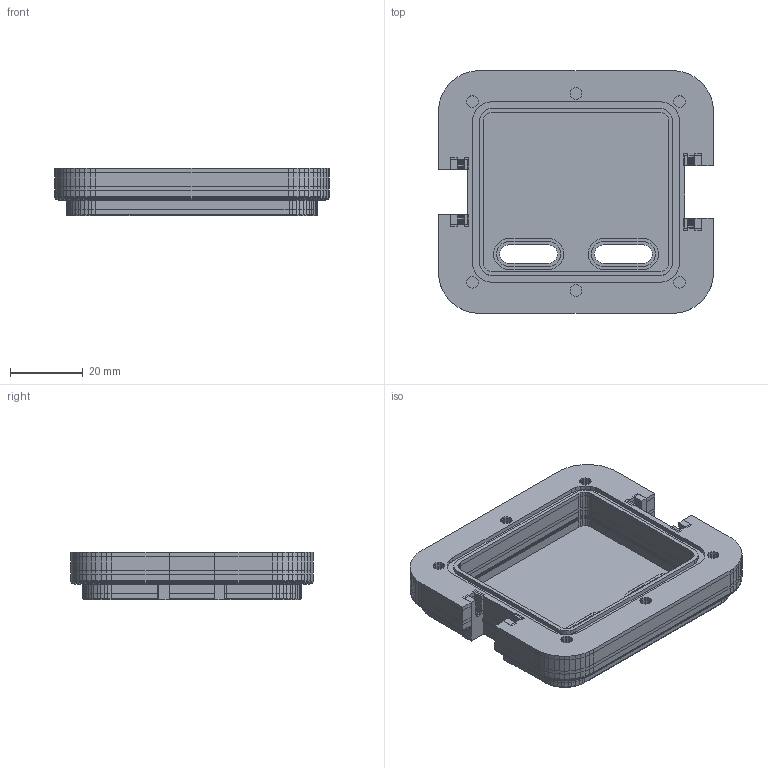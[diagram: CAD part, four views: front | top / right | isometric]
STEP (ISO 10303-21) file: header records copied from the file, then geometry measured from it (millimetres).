
FILE_DESCRIPTION(('AVO Performance Horse - montaje de la cincha (B-rep poliedrico)'),'2;1');
FILE_NAME('AVO_CINCHA_R6_9_base_aro_luz_PETG_translucido','2026-11-15T12:00:00',('AVO Performance Horse'),('AVO Performance Horse'),'avo_cad.py','avo_cad.py (numpy)','');
FILE_SCHEMA(('AUTOMOTIVE_DESIGN { 1 0 10303 214 1 1 1 1 }'));
Length unit declared in the file: millimetre
Products named in the file (1): AVO_CINCHA_R6_9_base_aro_luz_PETG_translucido
Bounding box: 75.5 x 66.65 x 13 mm (x, y, z)
Volume: 31912.5 mm3; surface area: 17710.4 mm2
Topology: 5 solids, 5 shells, 2725 faces, 6070 edges, 3372 vertices
Faces by surface type: plane 2725
Entity records: 52406 total; most frequent: ORIENTED_EDGE 12260, VECTOR 6130, LINE 6130, EDGE_CURVE 6130, VERTEX_POINT 3432, CARTESIAN_POINT 3373, EDGE_LOOP 2746, AXIS2_PLACEMENT_3D 2726
